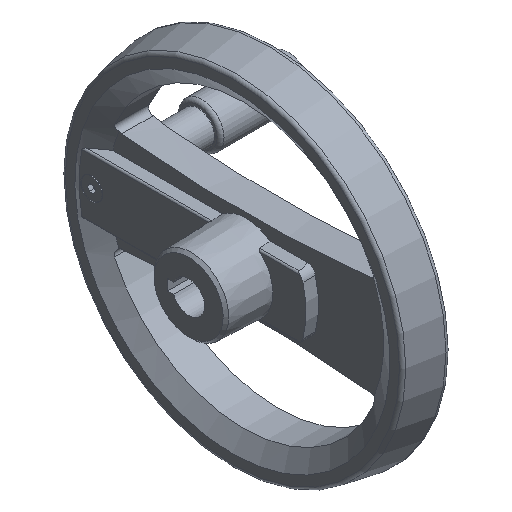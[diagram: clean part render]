
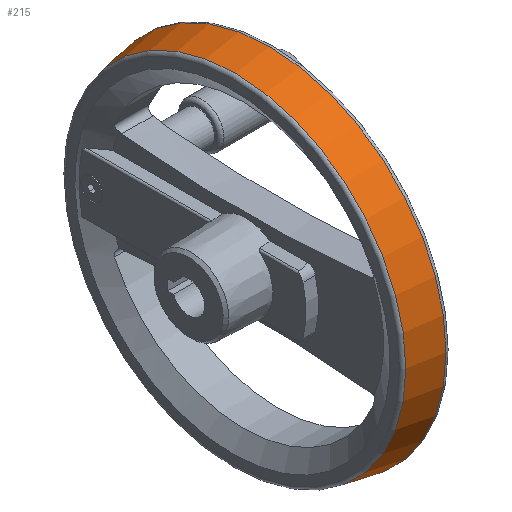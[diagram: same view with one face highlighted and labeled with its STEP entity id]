
A CAD part, isometric view. The second image highlights one B-rep face of the part: STEP entity #215.
In plain terms, the highlighted conical face has half-angle 9.986 degrees and reference radius 96.36 mm.
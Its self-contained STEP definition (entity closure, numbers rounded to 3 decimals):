
#215 = ADVANCED_FACE( '', ( #384, #385 ), #386, .T. );
#384 = FACE_OUTER_BOUND( '', #639, .T. );
#385 = FACE_BOUND( '', #640, .T. );
#386 = CONICAL_SURFACE( '', #641, 96.36, 0.174 );
#639 = EDGE_LOOP( '', ( #1151 ) );
#640 = EDGE_LOOP( '', ( #1152 ) );
#641 = AXIS2_PLACEMENT_3D( '', #1153, #1154, #1155 );
#1151 = ORIENTED_EDGE( '', *, *, #1702, .F. );
#1152 = ORIENTED_EDGE( '', *, *, #1703, .T. );
#1153 = CARTESIAN_POINT( '', ( 26.353, 0., 0. ) );
#1154 = DIRECTION( '', ( 1., 0., 0. ) );
#1155 = DIRECTION( '', ( 0., 0., -1. ) );
#1702 = EDGE_CURVE( '', #2043, #2043, #2044, .T. );
#1703 = EDGE_CURVE( '', #2045, #2045, #2046, .T. );
#2043 = VERTEX_POINT( '', #2910 );
#2044 = CIRCLE( '', #2911, 99.76 );
#2045 = VERTEX_POINT( '', #2912 );
#2046 = CIRCLE( '', #2913, 96.36 );
#2910 = CARTESIAN_POINT( '', ( 45.663, 0., -99.76 ) );
#2911 = AXIS2_PLACEMENT_3D( '', #3333, #3334, #3335 );
#2912 = CARTESIAN_POINT( '', ( 26.353, 0., -96.36 ) );
#2913 = AXIS2_PLACEMENT_3D( '', #3336, #3337, #3338 );
#3333 = CARTESIAN_POINT( '', ( 45.663, 0., 0. ) );
#3334 = DIRECTION( '', ( 1., 0., 0. ) );
#3335 = DIRECTION( '', ( 0., 0., -1. ) );
#3336 = CARTESIAN_POINT( '', ( 26.353, 0., 0. ) );
#3337 = DIRECTION( '', ( 1., 0., 0. ) );
#3338 = DIRECTION( '', ( 0., 0., -1. ) );
